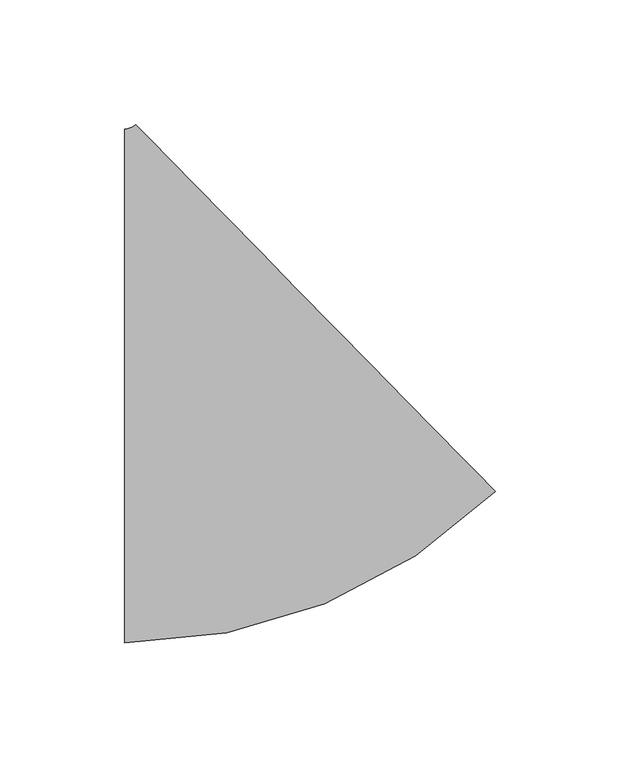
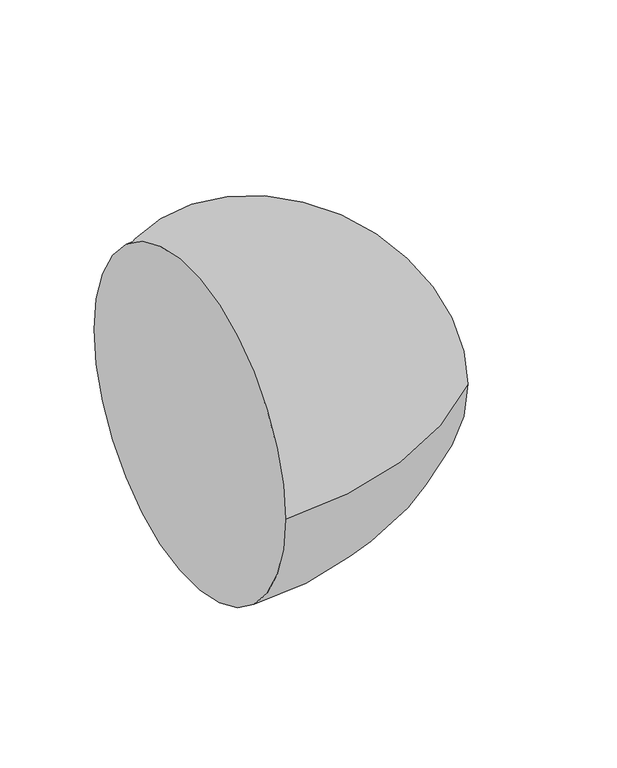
"""IFC4 building model written with IfcOpenShell, lengths in millimetres: pipe fitting geometry, M_Codo - Genérico : Estándar."""

from ifc_helpers import new_model, si_unit, point, frame, origin, place, context, project, spatial, circle_curve, ellipse_curve, trimmed, source, transform, mapped, element, save
from ifc_brep_helpers import plane_surface, revolved_surface, advanced_brep


def pipe_fitting_538e9e3e(model_context):
    return source(origin(), model_context, "Body", "AdvancedBrep", [
        advanced_brep(
        [(-44.7316045, -103.1875, 0.0), (-44.7316045, 103.1875, 0.0), (104.1760475, -42.3783873, 0.0), (-40.2865999, 105.0026974, 0.0)],
        [
            (0, 1, circle_curve(frame((-44.7316045, 0.0, 0.0), z_axis=(-1.0, 0.0, 0.0), x_axis=(0.0, 1.0, 0.0)), 103.1875)),
            (1, 0, circle_curve(frame((-44.7316045, 0.0, 0.0), z_axis=(-1.0, 0.0, 0.0), x_axis=(0.0, 1.0, 0.0)), 103.1875)),
            (2, 3, circle_curve(frame((31.9447238, 31.312155, 0.0), z_axis=(0.714142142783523, 0.7000007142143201, 0.0), x_axis=(-0.7000007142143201, 0.714142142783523, 0.0)), 103.1875)),
            (3, 2, circle_curve(frame((31.9447238, 31.312155, 0.0), z_axis=(0.714142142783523, 0.7000007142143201, 0.0), x_axis=(-0.7000007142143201, 0.714142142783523, 0.0)), 103.1875)),
            (3, 1, circle_curve(frame((-44.7316045, 109.5375, 0.0), z_axis=(0.0, 0.0, -1.0), x_axis=(0.0, -1.0, 0.0)), 6.35)),
            (0, 2, circle_curve(frame((-44.7316045, 109.5375, 0.0), z_axis=(0.0, 0.0, 1.0), x_axis=(0.0, -1.0, 0.0)), 212.725)),
        ],
        [
            plane_surface(frame((-44.7316045, 0.0, 0.0), z_axis=(-1.0, 0.0, 0.0), x_axis=(0.0, 0.0, 1.0))),
            plane_surface(frame((31.9447238, 31.312155, 0.0), z_axis=(0.7141421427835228, 0.7000007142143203, 0.0), x_axis=(0.0, 0.0, 1.0))),
            revolved_surface(trimmed(ellipse_curve(frame((-44.7316045, 0.0, 0.0), z_axis=(-1.0, 0.0, 0.0), x_axis=(0.0, 1.0, 0.0)), 103.1875, 103.1875), [point((-44.7316045, -103.1875, 0.0))], [point((-44.7316045, 103.1875, 0.0))], True, "CARTESIAN"), (-44.7316045, 109.5375, 0.0), (0.0, 0.0, 1.0)),
            revolved_surface(trimmed(ellipse_curve(frame((-44.7316045, 0.0, 0.0), z_axis=(-1.0, 0.0, 0.0), x_axis=(0.0, 1.0, 0.0)), 103.1875, 103.1875), [point((-44.7316045, 103.1875, 0.0))], [point((-44.7316045, -103.1875, 0.0))], True, "CARTESIAN"), (-44.7316045, 109.5375, 0.0), (0.0, 0.0, 1.0)),
        ],
        [
            (0, [[1, 2]]),
            (1, [[3, 4]]),
            (2, [[5, -1, 6, -4]]),
            (3, [[-6, -2, -5, -3]]),
        ],
    ),
    ])


if __name__ == "__main__":
    model = new_model("IFC4")
    model_context = context("Model", 3, world=origin())
    ifc_project = project(units=[si_unit("LENGTHUNIT", "METRE", prefix="MILLI")], contexts=[model_context])
    site = spatial("IfcSite", under=ifc_project)
    building = spatial("IfcBuilding", under=site)
    placement = place(None, origin())
    pipe_fitting_shape = pipe_fitting_538e9e3e(model_context)
    element("IfcPipeFitting", 1, ObjectType="M_Codo - Genérico : Estándar", at=placement, inside=building, context=model_context, shape_type="MappedRepresentation", body=[
        mapped(pipe_fitting_shape, transform((0.0, 0.0, 0.0), x_axis=(1.0, 0.0, 0.0), y_axis=(0.0, 1.0, 0.0), z_axis=(0.0, 0.0, 1.0))),
    ])
    save(model, "model.ifc")
